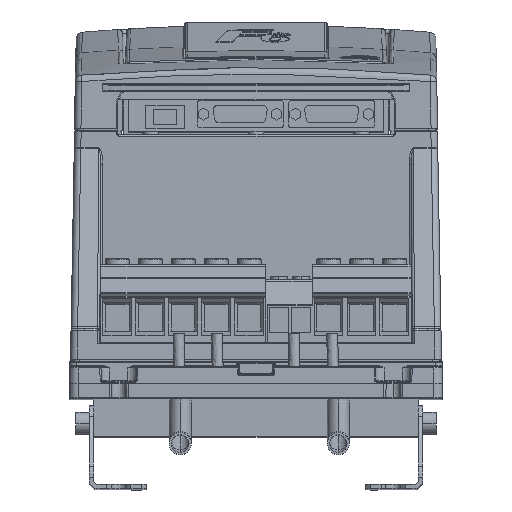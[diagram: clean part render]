
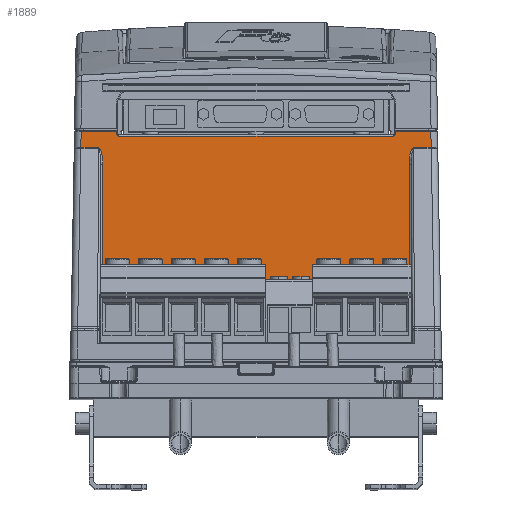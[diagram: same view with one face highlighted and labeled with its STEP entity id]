
A CAD part, top view. The second image highlights one B-rep face of the part: STEP entity #1889.
In plain terms, the highlighted planar face has unit normal (0, 0, 1).
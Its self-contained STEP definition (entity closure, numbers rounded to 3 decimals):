
#297 = CARTESIAN_POINT ( 'NONE',  ( 62.5, 46.6, 124. ) ) ;
#570 = VERTEX_POINT ( 'NONE', #26065 ) ;
#640 = VECTOR ( 'NONE', #18826, 1000. ) ;
#978 = CARTESIAN_POINT ( 'NONE',  ( -71.729, 41.234, 124. ) ) ;
#1066 = LINE ( 'NONE', #56042, #63639 ) ;
#1154 = ORIENTED_EDGE ( 'NONE', *, *, #5219, .T. ) ;
#1343 = EDGE_CURVE ( 'NONE', #5833, #55450, #26270, .T. ) ;
#1889 = ADVANCED_FACE ( 'NONE', ( #64753 ), #24155, .F. ) ;
#2143 = CARTESIAN_POINT ( 'NONE',  ( -69.763, 33.786, 124. ) ) ;
#2504 = LINE ( 'NONE', #13495, #65538 ) ;
#2798 = EDGE_CURVE ( 'NONE', #62010, #42042, #1066, .T. ) ;
#3477 = LINE ( 'NONE', #64426, #640 ) ;
#3894 = CARTESIAN_POINT ( 'NONE',  ( 71.729, 41.234, 124. ) ) ;
#3991 = DIRECTION ( 'NONE',  ( 0., 1., 0. ) ) ;
#5219 = EDGE_CURVE ( 'NONE', #58223, #46600, #53260, .T. ) ;
#5833 = VERTEX_POINT ( 'NONE', #297 ) ;
#7079 = CARTESIAN_POINT ( 'NONE',  ( 69.763, 33.786, 124. ) ) ;
#7342 = EDGE_CURVE ( 'NONE', #570, #23782, #10181, .T. ) ;
#7505 = EDGE_CURVE ( 'NONE', #62893, #55450, #21801, .T. ) ;
#8016 = ORIENTED_EDGE ( 'NONE', *, *, #7342, .T. ) ;
#8354 = ORIENTED_EDGE ( 'NONE', *, *, #57859, .T. ) ;
#10181 = LINE ( 'NONE', #45462, #17205 ) ;
#10359 = DIRECTION ( 'NONE',  ( -1., 0., 0. ) ) ;
#12618 = DIRECTION ( 'NONE',  ( -1., 0., 0. ) ) ;
#13350 = DIRECTION ( 'NONE',  ( -0.018, -1., 0. ) ) ;
#13495 = CARTESIAN_POINT ( 'NONE',  ( -63.5, 89.215, 124. ) ) ;
#13769 = ORIENTED_EDGE ( 'NONE', *, *, #7505, .T. ) ;
#14557 = AXIS2_PLACEMENT_3D ( 'NONE', #53579, #38921, #12618 ) ;
#14777 = ORIENTED_EDGE ( 'NONE', *, *, #51147, .T. ) ;
#15321 = VERTEX_POINT ( 'NONE', #21939 ) ;
#15833 = CARTESIAN_POINT ( 'NONE',  ( -69.763, -47.4, 124. ) ) ;
#16162 = VECTOR ( 'NONE', #16815, 1000. ) ;
#16235 = CARTESIAN_POINT ( 'NONE',  ( -63.5, 48.6, 124. ) ) ;
#16423 = VECTOR ( 'NONE', #39400, 1000. ) ;
#16815 = DIRECTION ( 'NONE',  ( 0., -1., 0. ) ) ;
#16818 = CARTESIAN_POINT ( 'NONE',  ( -70.573, 41.234, 124. ) ) ;
#16877 = ORIENTED_EDGE ( 'NONE', *, *, #45130, .T. ) ;
#17048 = CARTESIAN_POINT ( 'NONE',  ( 69.763, -47.4, 124. ) ) ;
#17205 = VECTOR ( 'NONE', #61468, 1000. ) ;
#17404 = CARTESIAN_POINT ( 'NONE',  ( 69.763, 38.164, 124. ) ) ;
#18111 = VERTEX_POINT ( 'NONE', #17048 ) ;
#18826 = DIRECTION ( 'NONE',  ( -1., 0., 0. ) ) ;
#19547 = EDGE_CURVE ( 'NONE', #23047, #570, #65765, .T. ) ;
#19861 = CIRCLE ( 'NONE', #57104, 1. ) ;
#19937 = AXIS2_PLACEMENT_3D ( 'NONE', #33153, #64436, #48801 ) ;
#21801 = LINE ( 'NONE', #37774, #16162 ) ;
#21939 = CARTESIAN_POINT ( 'NONE',  ( 69.763, 33.786, 124. ) ) ;
#21963 = DIRECTION ( 'NONE',  ( 1., 0., 0. ) ) ;
#22398 = CARTESIAN_POINT ( 'NONE',  ( -62.5, 46.6, 124. ) ) ;
#23047 = VERTEX_POINT ( 'NONE', #978 ) ;
#23516 = CARTESIAN_POINT ( 'NONE',  ( -84.5, -47.4, 124. ) ) ;
#23782 = VERTEX_POINT ( 'NONE', #15833 ) ;
#24155 = PLANE ( 'NONE',  #19937 ) ;
#24960 = ORIENTED_EDGE ( 'NONE', *, *, #58672, .T. ) ;
#26065 = CARTESIAN_POINT ( 'NONE',  ( -69.763, 33.786, 124. ) ) ;
#26270 = CIRCLE ( 'NONE', #14557, 1. ) ;
#26721 = LINE ( 'NONE', #37035, #57964 ) ;
#26739 = VECTOR ( 'NONE', #3991, 1000. ) ;
#27452 = CARTESIAN_POINT ( 'NONE',  ( -69.763, 38.164, 124. ) ) ;
#27489 = EDGE_CURVE ( 'NONE', #15321, #65353, #29497, .T. ) ;
#27604 = CARTESIAN_POINT ( 'NONE',  ( -84.5, 48.6, 124. ) ) ;
#27847 = EDGE_CURVE ( 'NONE', #5833, #47411, #44372, .T. ) ;
#27887 = VERTEX_POINT ( 'NONE', #39719 ) ;
#28599 = ORIENTED_EDGE ( 'NONE', *, *, #62956, .F. ) ;
#29497 =( BOUNDED_CURVE ( )  B_SPLINE_CURVE ( 3, ( #7079, #17404, #33063, #38061 ),
 .UNSPECIFIED., .F., .T. ) 
 B_SPLINE_CURVE_WITH_KNOTS ( ( 4, 4 ),
 ( 4.73, 6.284 ),
 .UNSPECIFIED. ) 
 CURVE ( )  GEOMETRIC_REPRESENTATION_ITEM ( )  RATIONAL_B_SPLINE_CURVE ( ( 1., 0.809, 0.809, 1. ) ) 
 REPRESENTATION_ITEM ( '' )  );
#30402 = VECTOR ( 'NONE', #38166, 1000. ) ;
#30739 = EDGE_LOOP ( 'NONE', ( #54083, #47417, #60379, #8354, #36817, #14777, #13769, #61446, #59590, #28599, #31716, #1154, #16877, #24960, #61696, #8016 ) ) ;
#31008 = VECTOR ( 'NONE', #13350, 1000. ) ;
#31716 = ORIENTED_EDGE ( 'NONE', *, *, #60816, .T. ) ;
#32086 = CARTESIAN_POINT ( 'NONE',  ( 79.765, 41.234, 124. ) ) ;
#32691 = DIRECTION ( 'NONE',  ( 1., 0., 0. ) ) ;
#33063 = CARTESIAN_POINT ( 'NONE',  ( 70.573, 41.234, 124. ) ) ;
#33153 = CARTESIAN_POINT ( 'NONE',  ( -84.5, 89.215, 124. ) ) ;
#33378 = CARTESIAN_POINT ( 'NONE',  ( 63.5, 48.6, 124. ) ) ;
#33605 = DIRECTION ( 'NONE',  ( -1., 0., 0. ) ) ;
#34696 = CARTESIAN_POINT ( 'NONE',  ( 63.5, 47.6, 124. ) ) ;
#36038 = CARTESIAN_POINT ( 'NONE',  ( 79.633, 48.6, 124. ) ) ;
#36817 = ORIENTED_EDGE ( 'NONE', *, *, #2798, .T. ) ;
#37035 = CARTESIAN_POINT ( 'NONE',  ( -71.729, 41.234, 124. ) ) ;
#37774 = CARTESIAN_POINT ( 'NONE',  ( 63.5, 89.215, 124. ) ) ;
#38061 = CARTESIAN_POINT ( 'NONE',  ( 71.729, 41.234, 124. ) ) ;
#38166 = DIRECTION ( 'NONE',  ( -1., 0., 0. ) ) ;
#38921 = DIRECTION ( 'NONE',  ( 0., 0., 1. ) ) ;
#39400 = DIRECTION ( 'NONE',  ( -1., 0., 0. ) ) ;
#39719 = CARTESIAN_POINT ( 'NONE',  ( -79.765, 41.234, 124. ) ) ;
#41745 = DIRECTION ( 'NONE',  ( -0.018, 1., 0. ) ) ;
#42042 = VERTEX_POINT ( 'NONE', #36038 ) ;
#42730 = VERTEX_POINT ( 'NONE', #59922 ) ;
#43468 = VECTOR ( 'NONE', #33605, 1000. ) ;
#43674 = LINE ( 'NONE', #49302, #31008 ) ;
#44121 = DIRECTION ( 'NONE',  ( 0., 1., 0. ) ) ;
#44372 = LINE ( 'NONE', #60352, #16423 ) ;
#45130 = EDGE_CURVE ( 'NONE', #46600, #27887, #43674, .T. ) ;
#45175 = EDGE_CURVE ( 'NONE', #18111, #15321, #55297, .T. ) ;
#45462 = CARTESIAN_POINT ( 'NONE',  ( -69.763, 89.215, 124. ) ) ;
#46264 = CARTESIAN_POINT ( 'NONE',  ( 79.767, 41.234, 124. ) ) ;
#46600 = VERTEX_POINT ( 'NONE', #60968 ) ;
#47411 = VERTEX_POINT ( 'NONE', #22398 ) ;
#47417 = ORIENTED_EDGE ( 'NONE', *, *, #45175, .T. ) ;
#48801 = DIRECTION ( 'NONE',  ( -1., 0., 0. ) ) ;
#49302 = CARTESIAN_POINT ( 'NONE',  ( -78.911, 89.115, 124. ) ) ;
#49345 = VECTOR ( 'NONE', #21963, 1000. ) ;
#49957 = CARTESIAN_POINT ( 'NONE',  ( 69.763, 89.215, 124. ) ) ;
#50331 = CARTESIAN_POINT ( 'NONE',  ( -62.5, 47.6, 124. ) ) ;
#51147 = EDGE_CURVE ( 'NONE', #42042, #62893, #3477, .T. ) ;
#53260 = LINE ( 'NONE', #27604, #43468 ) ;
#53579 = CARTESIAN_POINT ( 'NONE',  ( 62.5, 47.6, 124. ) ) ;
#54083 = ORIENTED_EDGE ( 'NONE', *, *, #61804, .F. ) ;
#54154 = LINE ( 'NONE', #23516, #30402 ) ;
#55297 = LINE ( 'NONE', #49957, #26739 ) ;
#55450 = VERTEX_POINT ( 'NONE', #34696 ) ;
#56042 = CARTESIAN_POINT ( 'NONE',  ( 78.857, 92.127, 124. ) ) ;
#57104 = AXIS2_PLACEMENT_3D ( 'NONE', #50331, #60664, #10359 ) ;
#57277 = LINE ( 'NONE', #46264, #49345 ) ;
#57859 = EDGE_CURVE ( 'NONE', #65353, #62010, #57277, .T. ) ;
#57964 = VECTOR ( 'NONE', #32691, 1000. ) ;
#58223 = VERTEX_POINT ( 'NONE', #16235 ) ;
#58672 = EDGE_CURVE ( 'NONE', #27887, #23047, #26721, .T. ) ;
#59590 = ORIENTED_EDGE ( 'NONE', *, *, #27847, .T. ) ;
#59922 = CARTESIAN_POINT ( 'NONE',  ( -63.5, 47.6, 124. ) ) ;
#60352 = CARTESIAN_POINT ( 'NONE',  ( 49.191, 46.6, 124. ) ) ;
#60379 = ORIENTED_EDGE ( 'NONE', *, *, #27489, .T. ) ;
#60664 = DIRECTION ( 'NONE',  ( 0., 0., 1. ) ) ;
#60816 = EDGE_CURVE ( 'NONE', #42730, #58223, #2504, .T. ) ;
#60968 = CARTESIAN_POINT ( 'NONE',  ( -79.633, 48.6, 124. ) ) ;
#61446 = ORIENTED_EDGE ( 'NONE', *, *, #1343, .F. ) ;
#61468 = DIRECTION ( 'NONE',  ( 0., -1., 0. ) ) ;
#61696 = ORIENTED_EDGE ( 'NONE', *, *, #19547, .T. ) ;
#61804 = EDGE_CURVE ( 'NONE', #18111, #23782, #54154, .T. ) ;
#62010 = VERTEX_POINT ( 'NONE', #32086 ) ;
#62788 = CARTESIAN_POINT ( 'NONE',  ( -71.729, 41.234, 124. ) ) ;
#62893 = VERTEX_POINT ( 'NONE', #33378 ) ;
#62956 = EDGE_CURVE ( 'NONE', #42730, #47411, #19861, .T. ) ;
#63639 = VECTOR ( 'NONE', #41745, 1000. ) ;
#64426 = CARTESIAN_POINT ( 'NONE',  ( -84.5, 48.6, 124. ) ) ;
#64436 = DIRECTION ( 'NONE',  ( 0., 0., -1. ) ) ;
#64753 = FACE_OUTER_BOUND ( 'NONE', #30739, .T. ) ;
#65353 = VERTEX_POINT ( 'NONE', #3894 ) ;
#65538 = VECTOR ( 'NONE', #44121, 1000. ) ;
#65765 =( BOUNDED_CURVE ( )  B_SPLINE_CURVE ( 3, ( #62788, #16818, #27452, #2143 ),
 .UNSPECIFIED., .F., .T. ) 
 B_SPLINE_CURVE_WITH_KNOTS ( ( 4, 4 ),
 ( 6.282, 7.836 ),
 .UNSPECIFIED. ) 
 CURVE ( )  GEOMETRIC_REPRESENTATION_ITEM ( )  RATIONAL_B_SPLINE_CURVE ( ( 1., 0.809, 0.809, 1. ) ) 
 REPRESENTATION_ITEM ( '' )  );
